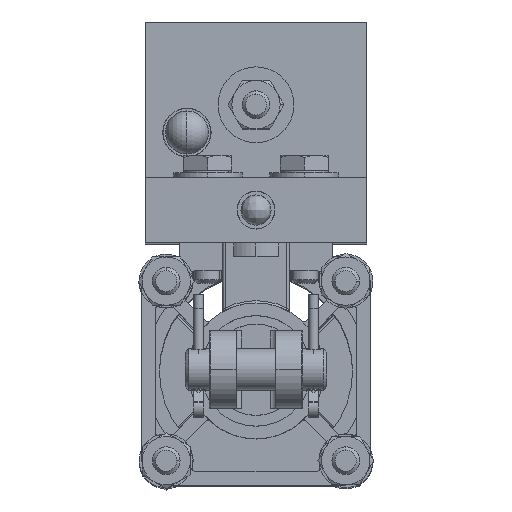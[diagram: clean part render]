
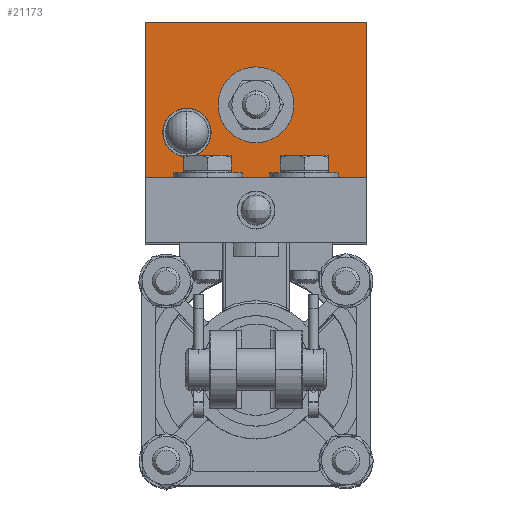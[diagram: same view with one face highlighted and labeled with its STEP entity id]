
A CAD part, top view. The second image highlights one B-rep face of the part: STEP entity #21173.
In plain terms, the highlighted planar face has unit normal (0, 0, 1).
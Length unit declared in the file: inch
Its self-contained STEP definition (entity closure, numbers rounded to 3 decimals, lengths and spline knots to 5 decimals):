
#100 = VERTEX_POINT ( 'NONE', #33240 ) ;
#222 = FACE_OUTER_BOUND ( 'NONE', #26143, .T. ) ;
#1464 = CARTESIAN_POINT ( 'NONE',  ( -1., 1.752, 2.65625 ) ) ;
#2269 = CARTESIAN_POINT ( 'NONE',  ( 1., 3.158, 2.65625 ) ) ;
#2294 = ORIENTED_EDGE ( 'NONE', *, *, #7678, .T. ) ;
#2670 = DIRECTION ( 'NONE',  ( 0., 1., 0. ) ) ;
#2809 = CARTESIAN_POINT ( 'NONE',  ( 1., 3.158, 2.65625 ) ) ;
#3753 = EDGE_CURVE ( 'NONE', #14045, #15846, #13251, .T. ) ;
#4175 = ORIENTED_EDGE ( 'NONE', *, *, #39965, .F. ) ;
#4361 = DIRECTION ( 'NONE',  ( 0., 0., 1. ) ) ;
#4374 = AXIS2_PLACEMENT_3D ( 'NONE', #25566, #4361, #29140 ) ;
#5077 = ORIENTED_EDGE ( 'NONE', *, *, #35565, .F. ) ;
#5327 = CARTESIAN_POINT ( 'NONE',  ( -0.625, 2.158, 2.65625 ) ) ;
#5825 = CARTESIAN_POINT ( 'NONE',  ( -1., 3.158, 2.65625 ) ) ;
#6552 = EDGE_CURVE ( 'NONE', #32303, #100, #20061, .T. ) ;
#7589 = CARTESIAN_POINT ( 'NONE',  ( 0., 2.728, 2.65625 ) ) ;
#7640 = VECTOR ( 'NONE', #2670, 39.37008 ) ;
#7678 = EDGE_CURVE ( 'NONE', #34558, #15846, #27615, .T. ) ;
#8859 = DIRECTION ( 'NONE',  ( 1., 0., 0. ) ) ;
#9693 = LINE ( 'NONE', #20626, #28544 ) ;
#11902 = DIRECTION ( 'NONE',  ( 1., 0., 0. ) ) ;
#13251 = LINE ( 'NONE', #41632, #32092 ) ;
#14045 = VERTEX_POINT ( 'NONE', #5825 ) ;
#14111 = FACE_BOUND ( 'NONE', #42950, .T. ) ;
#14156 = CARTESIAN_POINT ( 'NONE',  ( -0.625, 2.158, 2.65625 ) ) ;
#14839 = LINE ( 'NONE', #1464, #33666 ) ;
#15055 = EDGE_CURVE ( 'NONE', #100, #32303, #38160, .T. ) ;
#15846 = VERTEX_POINT ( 'NONE', #2269 ) ;
#16139 = ORIENTED_EDGE ( 'NONE', *, *, #15055, .F. ) ;
#17651 = DIRECTION ( 'NONE',  ( 1., 0., 0. ) ) ;
#19297 = AXIS2_PLACEMENT_3D ( 'NONE', #41639, #20428, #45202 ) ;
#19495 = EDGE_CURVE ( 'NONE', #43191, #27229, #37112, .T. ) ;
#20061 = CIRCLE ( 'NONE', #43978, 0.32 ) ;
#20275 = PLANE ( 'NONE',  #19297 ) ;
#20428 = DIRECTION ( 'NONE',  ( 0., 0., -1. ) ) ;
#20626 = CARTESIAN_POINT ( 'NONE',  ( -1., 3.158, 2.65625 ) ) ;
#21173 = ADVANCED_FACE ( 'NONE', ( #222, #36768, #14111 ), #20275, .F. ) ;
#21326 = CARTESIAN_POINT ( 'NONE',  ( 1., 1.752, 2.65625 ) ) ;
#24620 = CARTESIAN_POINT ( 'NONE',  ( -0.84375, 2.158, 2.65625 ) ) ;
#24889 = DIRECTION ( 'NONE',  ( 0., -1., 0. ) ) ;
#25566 = CARTESIAN_POINT ( 'NONE',  ( 0., 2.408, 2.65625 ) ) ;
#26143 = EDGE_LOOP ( 'NONE', ( #30167, #4175, #28326, #2294 ) ) ;
#26336 = AXIS2_PLACEMENT_3D ( 'NONE', #5327, #30076, #8859 ) ;
#26647 = ORIENTED_EDGE ( 'NONE', *, *, #6552, .F. ) ;
#27229 = VERTEX_POINT ( 'NONE', #42182 ) ;
#27309 = EDGE_CURVE ( 'NONE', #33113, #34558, #14839, .T. ) ;
#27615 = LINE ( 'NONE', #2809, #7640 ) ;
#28280 = DIRECTION ( 'NONE',  ( 0., 0., 1. ) ) ;
#28326 = ORIENTED_EDGE ( 'NONE', *, *, #27309, .T. ) ;
#28457 = CARTESIAN_POINT ( 'NONE',  ( 0., 2.408, 2.65625 ) ) ;
#28544 = VECTOR ( 'NONE', #35700, 39.37008 ) ;
#29140 = DIRECTION ( 'NONE',  ( 0., -1., 0. ) ) ;
#29621 = DIRECTION ( 'NONE',  ( 1., 0., 0. ) ) ;
#30076 = DIRECTION ( 'NONE',  ( 0., 0., 1. ) ) ;
#30167 = ORIENTED_EDGE ( 'NONE', *, *, #3753, .F. ) ;
#32092 = VECTOR ( 'NONE', #11902, 39.37008 ) ;
#32303 = VERTEX_POINT ( 'NONE', #7589 ) ;
#33113 = VERTEX_POINT ( 'NONE', #43430 ) ;
#33240 = CARTESIAN_POINT ( 'NONE',  ( 0., 2.088, 2.65625 ) ) ;
#33666 = VECTOR ( 'NONE', #29621, 39.37008 ) ;
#34558 = VERTEX_POINT ( 'NONE', #21326 ) ;
#35565 = EDGE_CURVE ( 'NONE', #27229, #43191, #43536, .T. ) ;
#35700 = DIRECTION ( 'NONE',  ( 0., 1., 0. ) ) ;
#36768 = FACE_BOUND ( 'NONE', #39451, .T. ) ;
#37112 = CIRCLE ( 'NONE', #43249, 0.21875 ) ;
#38160 = CIRCLE ( 'NONE', #4374, 0.32 ) ;
#38917 = DIRECTION ( 'NONE',  ( 0., 0., 1. ) ) ;
#39451 = EDGE_LOOP ( 'NONE', ( #16139, #26647 ) ) ;
#39965 = EDGE_CURVE ( 'NONE', #33113, #14045, #9693, .T. ) ;
#41632 = CARTESIAN_POINT ( 'NONE',  ( -1., 3.158, 2.65625 ) ) ;
#41639 = CARTESIAN_POINT ( 'NONE',  ( -1., 3.158, 2.65625 ) ) ;
#42182 = CARTESIAN_POINT ( 'NONE',  ( -0.40625, 2.158, 2.65625 ) ) ;
#42763 = ORIENTED_EDGE ( 'NONE', *, *, #19495, .F. ) ;
#42950 = EDGE_LOOP ( 'NONE', ( #5077, #42763 ) ) ;
#43191 = VERTEX_POINT ( 'NONE', #24620 ) ;
#43249 = AXIS2_PLACEMENT_3D ( 'NONE', #14156, #38917, #17651 ) ;
#43430 = CARTESIAN_POINT ( 'NONE',  ( -1., 1.752, 2.65625 ) ) ;
#43536 = CIRCLE ( 'NONE', #26336, 0.21875 ) ;
#43978 = AXIS2_PLACEMENT_3D ( 'NONE', #28457, #28280, #24889 ) ;
#45202 = DIRECTION ( 'NONE',  ( -1., 0., 0. ) ) ;
